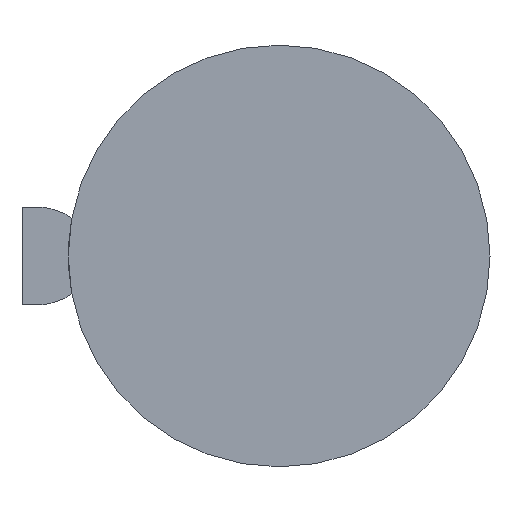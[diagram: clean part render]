
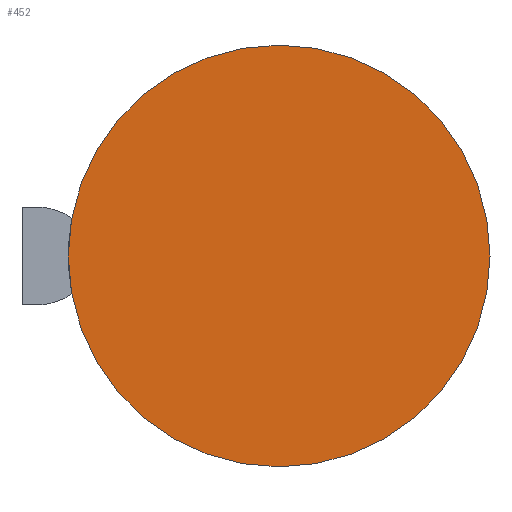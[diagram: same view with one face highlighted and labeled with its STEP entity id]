
A CAD part, front view. The second image highlights one B-rep face of the part: STEP entity #452.
In plain terms, the highlighted planar face has unit normal (0, -1, 0).
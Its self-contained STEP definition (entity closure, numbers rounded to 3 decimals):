
#123=CARTESIAN_POINT('',(0.,0.,0.));
#124=DIRECTION('',(0.,-1.,0.));
#125=DIRECTION('',(1.,0.,0.));
#126=AXIS2_PLACEMENT_3D('',#123,#124,#125);
#128=CARTESIAN_POINT('',(0.,0.,0.));
#129=DIRECTION('',(0.,-1.,0.));
#130=DIRECTION('',(-1.,0.,0.));
#131=AXIS2_PLACEMENT_3D('',#128,#129,#130);
#205=CARTESIAN_POINT('',(41.,0.,0.));
#206=CARTESIAN_POINT('',(-41.,0.,0.));
#207=VERTEX_POINT('',#205);
#208=VERTEX_POINT('',#206);
#443=CARTESIAN_POINT('',(0.,0.,0.));
#444=DIRECTION('',(0.,1.,0.));
#445=DIRECTION('',(1.,0.,0.));
#446=AXIS2_PLACEMENT_3D('',#443,#444,#445);
#447=PLANE('',#446);
#448=ORIENTED_EDGE('',*,*,#423,.F.);
#449=ORIENTED_EDGE('',*,*,#437,.F.);
#450=EDGE_LOOP('',(#448,#449));
#451=FACE_OUTER_BOUND('',#450,.F.);
#452=ADVANCED_FACE('',(#451),#447,.F.);
#127=CIRCLE('',#126,41.);
#132=CIRCLE('',#131,41.);
#423=EDGE_CURVE('',#207,#208,#127,.T.);
#437=EDGE_CURVE('',#208,#207,#132,.T.);
